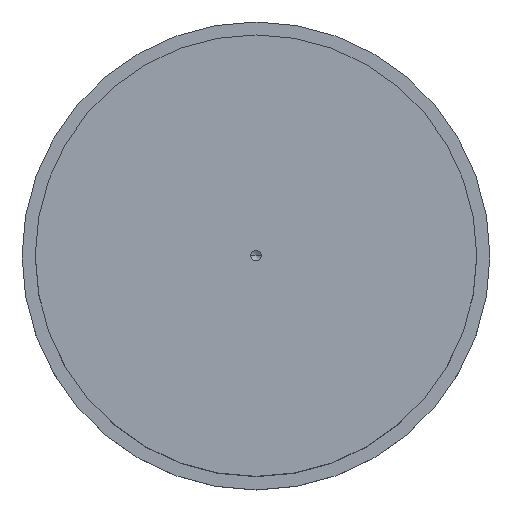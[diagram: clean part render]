
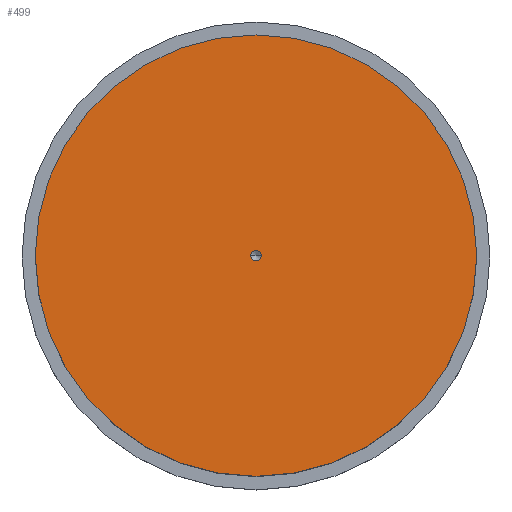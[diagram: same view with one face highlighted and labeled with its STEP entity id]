
A CAD part, top view. The second image highlights one B-rep face of the part: STEP entity #499.
In plain terms, the highlighted planar face has unit normal (0, 0, 1).
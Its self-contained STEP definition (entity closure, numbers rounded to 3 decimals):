
#31 = DIRECTION ( 'NONE',  ( 1., 0., 0. ) ) ;
#87 = DIRECTION ( 'NONE',  ( 0., 0., 1. ) ) ;
#101 = CARTESIAN_POINT ( 'NONE',  ( -250., 0., 268. ) ) ;
#125 = AXIS2_PLACEMENT_3D ( 'NONE', #711, #591, #179 ) ;
#126 = AXIS2_PLACEMENT_3D ( 'NONE', #562, #87, #31 ) ;
#146 = CARTESIAN_POINT ( 'NONE',  ( 0., 0., 268. ) ) ;
#156 = AXIS2_PLACEMENT_3D ( 'NONE', #146, #498, #564 ) ;
#179 = DIRECTION ( 'NONE',  ( 1., 0., 0. ) ) ;
#185 = EDGE_LOOP ( 'NONE', ( #655, #718 ) ) ;
#189 = EDGE_CURVE ( 'NONE', #388, #421, #536, .T. ) ;
#208 = CARTESIAN_POINT ( 'NONE',  ( 250., 0., 268. ) ) ;
#221 = CIRCLE ( 'NONE', #394, 5.917 ) ;
#224 = ORIENTED_EDGE ( 'NONE', *, *, #443, .F. ) ;
#290 = DIRECTION ( 'NONE',  ( 1., 0., 0. ) ) ;
#293 = CARTESIAN_POINT ( 'NONE',  ( 5.917, 0., 268. ) ) ;
#324 = CIRCLE ( 'NONE', #156, 250. ) ;
#328 = EDGE_CURVE ( 'NONE', #734, #392, #524, .T. ) ;
#344 = AXIS2_PLACEMENT_3D ( 'NONE', #356, #758, #290 ) ;
#356 = CARTESIAN_POINT ( 'NONE',  ( 0., 0., 268. ) ) ;
#363 = DIRECTION ( 'NONE',  ( 0., 0., 1. ) ) ;
#381 = EDGE_LOOP ( 'NONE', ( #224, #575 ) ) ;
#388 = VERTEX_POINT ( 'NONE', #391 ) ;
#391 = CARTESIAN_POINT ( 'NONE',  ( -5.917, 0., 268. ) ) ;
#392 = VERTEX_POINT ( 'NONE', #101 ) ;
#394 = AXIS2_PLACEMENT_3D ( 'NONE', #577, #363, #773 ) ;
#421 = VERTEX_POINT ( 'NONE', #293 ) ;
#443 = EDGE_CURVE ( 'NONE', #421, #388, #221, .T. ) ;
#459 = PLANE ( 'NONE',  #344 ) ;
#498 = DIRECTION ( 'NONE',  ( 0., 0., 1. ) ) ;
#499 = ADVANCED_FACE ( 'NONE', ( #710, #638 ), #459, .T. ) ;
#524 = CIRCLE ( 'NONE', #126, 250. ) ;
#536 = CIRCLE ( 'NONE', #125, 5.917 ) ;
#562 = CARTESIAN_POINT ( 'NONE',  ( 0., 0., 268. ) ) ;
#564 = DIRECTION ( 'NONE',  ( 1., 0., 0. ) ) ;
#575 = ORIENTED_EDGE ( 'NONE', *, *, #189, .F. ) ;
#577 = CARTESIAN_POINT ( 'NONE',  ( 0., 0., 268. ) ) ;
#591 = DIRECTION ( 'NONE',  ( 0., 0., 1. ) ) ;
#638 = FACE_OUTER_BOUND ( 'NONE', #185, .T. ) ;
#655 = ORIENTED_EDGE ( 'NONE', *, *, #673, .T. ) ;
#673 = EDGE_CURVE ( 'NONE', #392, #734, #324, .T. ) ;
#710 = FACE_BOUND ( 'NONE', #381, .T. ) ;
#711 = CARTESIAN_POINT ( 'NONE',  ( 0., 0., 268. ) ) ;
#718 = ORIENTED_EDGE ( 'NONE', *, *, #328, .T. ) ;
#734 = VERTEX_POINT ( 'NONE', #208 ) ;
#758 = DIRECTION ( 'NONE',  ( 0., 0., 1. ) ) ;
#773 = DIRECTION ( 'NONE',  ( 1., 0., 0. ) ) ;
